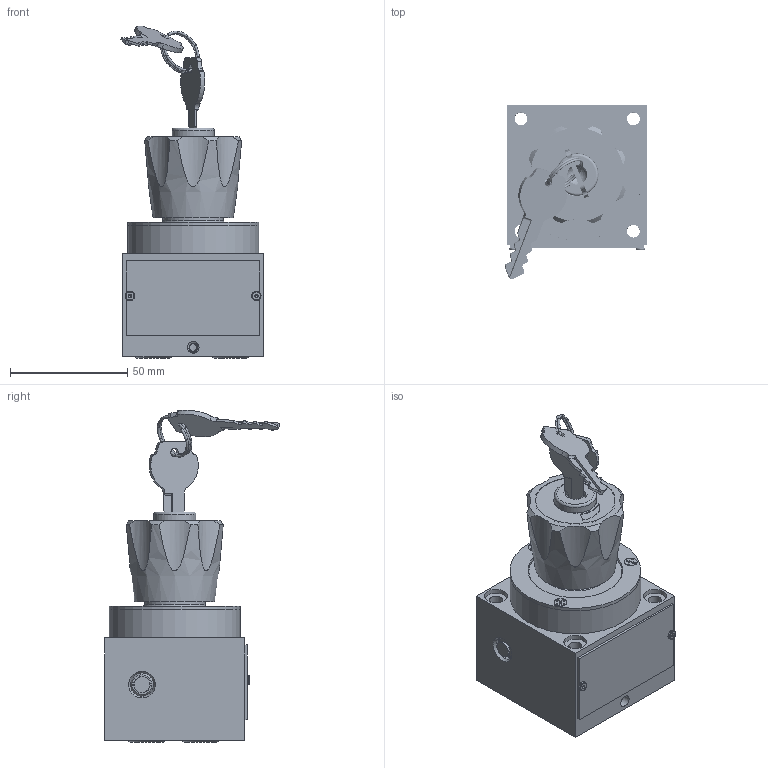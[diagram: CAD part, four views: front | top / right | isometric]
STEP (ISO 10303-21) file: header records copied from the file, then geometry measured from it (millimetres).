
FILE_DESCRIPTION(/* description */ (''),/* implementation_level */ '2;1');
FILE_NAME(/* name */ '2FRM5-3XJ调速阀.stp',/* time_stamp */ '2023-12-21T17:24:09+08:00',/* author */ (''),/* organization */ (''),/* preprocessor_version */ 'ST-DEVELOPER v16.7',/* originating_system */ 'SIEMENS PLM Software NX 12.0',/* authorisation */ '');
FILE_SCHEMA (('AUTOMOTIVE_DESIGN { 1 0 10303 214 3 1 1 1 }'));
Products named in the file (1): 2FRM5-3XJ调速阀2
Bounding box: 60.98 x 74.73 x 141.85 mm (x, y, z)
Volume: 46426.1 mm3; surface area: 67635.3 mm2
Topology: 28 solids, 29 shells, 1105 faces, 2904 edges, 1893 vertices
Faces by surface type: cylinder 490, plane 310, extrusion 140, cone 77, torus 56, bspline 30, sphere 2
Full cylindrical faces by diameter (mm): 1.5 x2, 1.8 x6, 2.55 x39, 3.5 x3, 3.9 x1, 4 x2, 5 x4, 5.2 x2, 5.5 x7, 6 x2, 6.3 x3, 7 x2, 7.3 x1, 7.8 x2, 8 x2, 8.2 x1, 8.4 x2, 8.5 x1, 9.8 x1, 10 x14, 10.5 x3, 10.6 x1, 12 x5, 12.5 x1, 12.8 x2, 13 x1, 14 x1, 15.5 x2, 17 x3, 18 x4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
Entity records: 72114 total; most frequent: CARTESIAN_POINT 46766, DIRECTION 5038, ORIENTED_EDGE 5008, EDGE_CURVE 2504, AXIS2_PLACEMENT_3D 1976, VERTEX_POINT 1762, EDGE_LOOP 1368, VECTOR 1086
